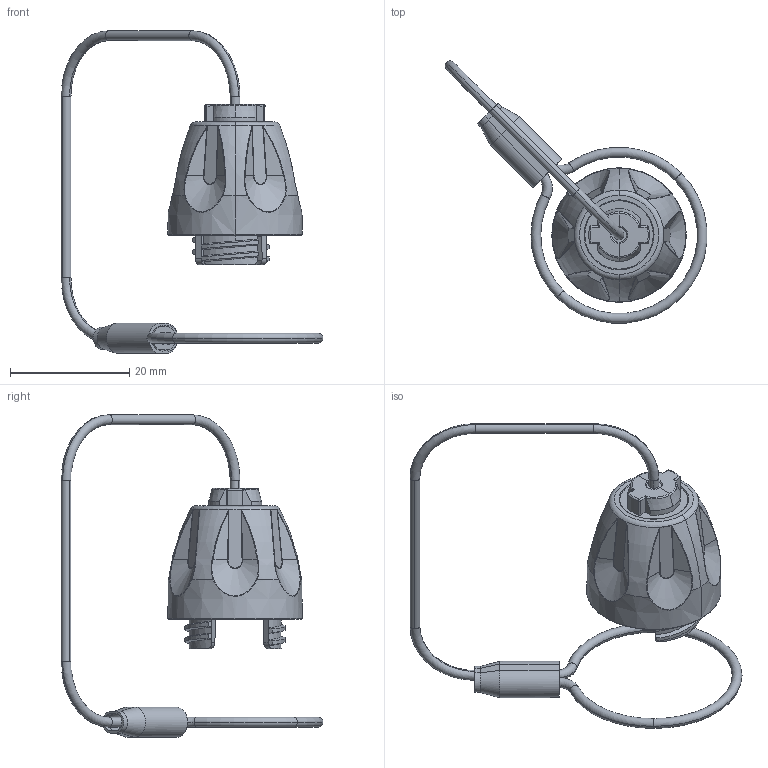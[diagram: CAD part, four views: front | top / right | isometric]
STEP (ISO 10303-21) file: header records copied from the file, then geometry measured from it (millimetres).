
FILE_DESCRIPTION (( 'STEP AP214' ), '1' );
FILE_NAME ('QMICRO-DCHRP.STEP', '2025-04-28T19:58:08', ( '' ), ( '' ), 'SwSTEP 2.0', 'SolidWorks 2024', '' );
FILE_SCHEMA (( 'AUTOMOTIVE_DESIGN' ));
Length unit declared in the file: inch
Products named in the file (1): QMICRO-DCHRP
Bounding box: 43.94 x 43.94 x 54.15 mm (x, y, z)
Volume: 6041.6 mm3; surface area: 5124.2 mm2
Topology: 3 solids, 3 shells, 365 faces, 889 edges, 536 vertices
Faces by surface type: bspline 134, cylinder 80, plane 58, torus 44, cone 33, sphere 16
Entity records: 15559 total; most frequent: CARTESIAN_POINT 8131, ORIENTED_EDGE 1778, DIRECTION 1270, EDGE_CURVE 889, AXIS2_PLACEMENT_3D 545, VERTEX_POINT 536, EDGE_LOOP 375, FACE_OUTER_BOUND 365
